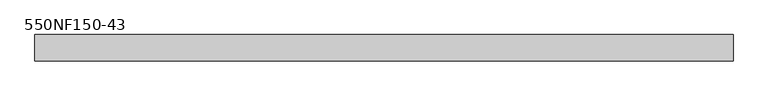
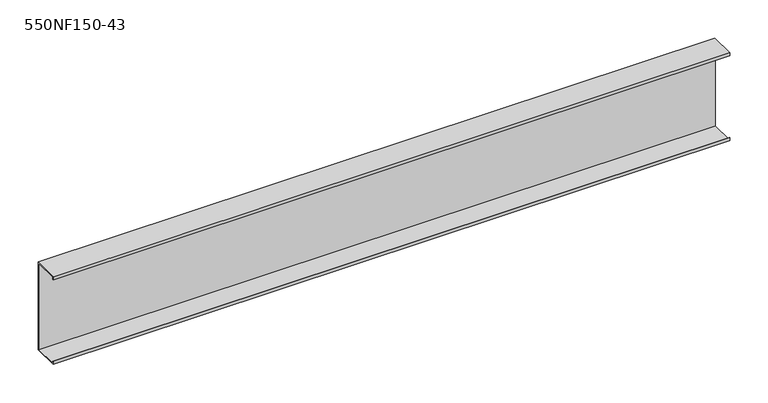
"""IFC4 building model written with IfcOpenShell, lengths in millimetres: beam geometry, BIMSF-SSMA-S : 550NF150-43."""

from ifc_helpers import new_model, si_unit, frame, origin, place, context, project, spatial, polyline, outline, extrude, source, transform, mapped, element, save


def beam_550nf150_43_50ac8934(model_context):
    return source(origin(), model_context, "Body", "SweptSolid", [
        extrude(outline(polyline([(19.05, 69.85), (19.05, -69.85), (-19.05, -69.85), (-19.05, -65.0748), (-17.9003158, -65.0748), (-17.9003158, -68.7003158), (17.9003158, -68.7003158), (17.9003158, 68.7003158), (-17.9003158, 68.7003158), (-17.9003158, 65.0748), (-19.05, 65.0748), (-19.05, 69.85), (19.05, 69.85)])), frame((-508.0, 0.0, 0.0), z_axis=(1.0, 0.0, 0.0), x_axis=(0.0, 1.0, 0.0)), (0.0, 0.0, 1.0), 1016.0),
    ])


if __name__ == "__main__":
    model = new_model("IFC4")
    model_context = context("Model", 3, world=origin())
    ifc_project = project(units=[si_unit("LENGTHUNIT", "METRE", prefix="MILLI")], contexts=[model_context])
    site = spatial("IfcSite", under=ifc_project)
    building = spatial("IfcBuilding", under=site)
    placement = place(None, origin())
    beam_550nf150_43_shape = beam_550nf150_43_50ac8934(model_context)
    element("IfcBeam", 1, ObjectType="BIMSF-SSMA-S : 550NF150-43", at=placement, inside=building, context=model_context, shape_type="MappedRepresentation", body=[
        mapped(beam_550nf150_43_shape, transform((0.0, 0.0, 0.0), x_axis=(1.0, 0.0, 0.0), y_axis=(0.0, 1.0, 0.0), z_axis=(0.0, 0.0, 1.0))),
    ])
    save(model, "model.ifc")
